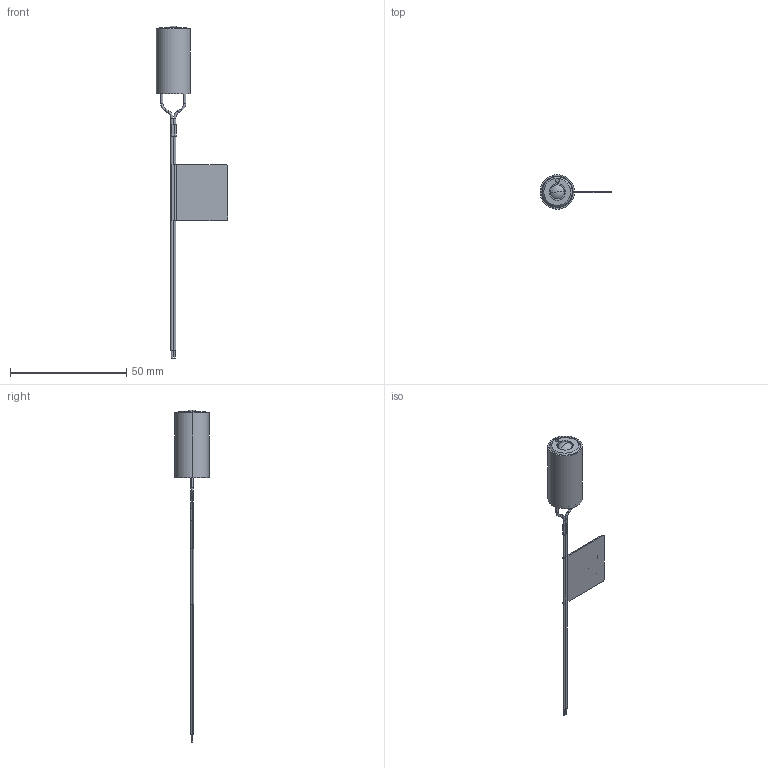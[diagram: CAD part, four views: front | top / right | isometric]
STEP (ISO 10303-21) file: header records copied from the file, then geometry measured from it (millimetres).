
FILE_DESCRIPTION (( 'STEP AP214' ), '1' );
FILE_NAME ('VLM2-8L.STEP', '2020-01-09T17:46:25', ( '' ), ( '' ), 'SwSTEP 2.0', 'SolidWorks 2019', '' );
FILE_SCHEMA (( 'AUTOMOTIVE_DESIGN' ));
Length unit declared in the file: inch
Products named in the file (1): VLM2-8L
Bounding box: 30.81 x 14.74 x 142.56 mm (x, y, z)
Surface area: 4868.7 mm2 (no closed solid volume)
Topology: 0 solids, 10 shells, 172 faces, 484 edges, 329 vertices
Faces by surface type: plane 93, cylinder 54, bspline 11, torus 8, cone 4, sphere 2
Entity records: 8333 total; most frequent: CARTESIAN_POINT 1593, DIRECTION 934, ORIENTED_EDGE 859, EDGE_CURVE 484, VERTEX_POINT 329, AXIS2_PLACEMENT_3D 312, LINE 310, VECTOR 310
